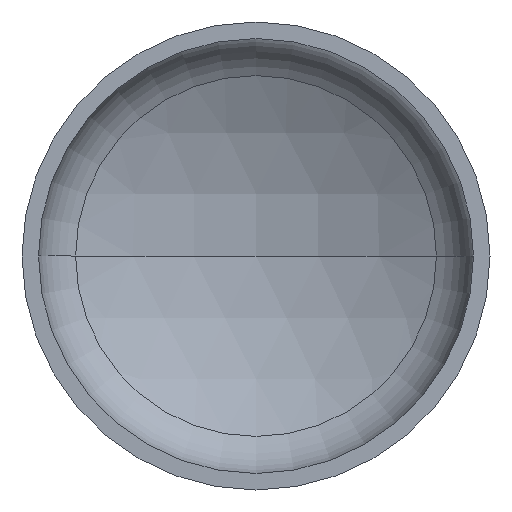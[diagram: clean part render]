
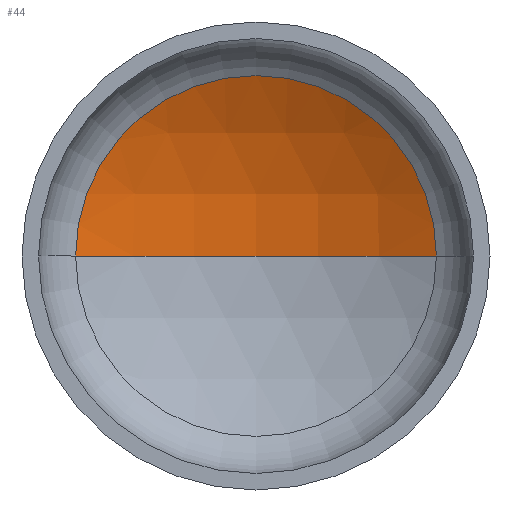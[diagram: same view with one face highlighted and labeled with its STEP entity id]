
A CAD part, front view. The second image highlights one B-rep face of the part: STEP entity #44.
In plain terms, the highlighted spherical face has radius 1360 mm.
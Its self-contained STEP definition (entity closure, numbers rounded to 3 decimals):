
#10 = AXIS2_PLACEMENT_3D ( 'NONE', #149, #311, #170 ) ;
#11 = AXIS2_PLACEMENT_3D ( 'NONE', #240, #407, #260 ) ;
#19 = AXIS2_PLACEMENT_3D ( 'NONE', #211, #388, #238 ) ;
#26 = VERTEX_POINT ( 'NONE', #378 ) ;
#41 = ORIENTED_EDGE ( 'NONE', *, *, #336, .T. ) ;
#44 = ADVANCED_FACE ( 'NONE', ( #365 ), #50, .F. ) ;
#46 = DIRECTION ( 'NONE',  ( 0., 0., -1. ) ) ;
#50 = SPHERICAL_SURFACE ( 'NONE', #68, 1360. ) ;
#68 = AXIS2_PLACEMENT_3D ( 'NONE', #250, #46, #271 ) ;
#74 = CIRCLE ( 'NONE', #11, 655.273 ) ;
#76 = VERTEX_POINT ( 'NONE', #185 ) ;
#83 = ORIENTED_EDGE ( 'NONE', *, *, #338, .T. ) ;
#110 = EDGE_LOOP ( 'NONE', ( #135, #83, #41 ) ) ;
#135 = ORIENTED_EDGE ( 'NONE', *, *, #323, .F. ) ;
#137 = VERTEX_POINT ( 'NONE', #164 ) ;
#149 = CARTESIAN_POINT ( 'NONE',  ( 0., -843.898, 0. ) ) ;
#164 = CARTESIAN_POINT ( 'NONE',  ( -655.273, 347.831, 0. ) ) ;
#170 = DIRECTION ( 'NONE',  ( -1., 0., 0. ) ) ;
#180 = CIRCLE ( 'NONE', #10, 1360. ) ;
#185 = CARTESIAN_POINT ( 'NONE',  ( 655.273, 347.831, 0. ) ) ;
#211 = CARTESIAN_POINT ( 'NONE',  ( 0., -843.898, 0. ) ) ;
#238 = DIRECTION ( 'NONE',  ( 1., 0., 0. ) ) ;
#240 = CARTESIAN_POINT ( 'NONE',  ( 0., 347.831, 0. ) ) ;
#250 = CARTESIAN_POINT ( 'NONE',  ( 0., -843.898, 0. ) ) ;
#260 = DIRECTION ( 'NONE',  ( 1., 0., 0. ) ) ;
#271 = DIRECTION ( 'NONE',  ( -1., 0., 0. ) ) ;
#305 = CIRCLE ( 'NONE', #19, 1360. ) ;
#311 = DIRECTION ( 'NONE',  ( 0., 0., -1. ) ) ;
#323 = EDGE_CURVE ( 'NONE', #26, #137, #305, .T. ) ;
#336 = EDGE_CURVE ( 'NONE', #76, #137, #74, .T. ) ;
#338 = EDGE_CURVE ( 'NONE', #26, #76, #180, .T. ) ;
#365 = FACE_OUTER_BOUND ( 'NONE', #110, .T. ) ;
#378 = CARTESIAN_POINT ( 'NONE',  ( 0., 516.102, 0. ) ) ;
#388 = DIRECTION ( 'NONE',  ( 0., 0., 1. ) ) ;
#407 = DIRECTION ( 'NONE',  ( 0., -1., 0. ) ) ;
